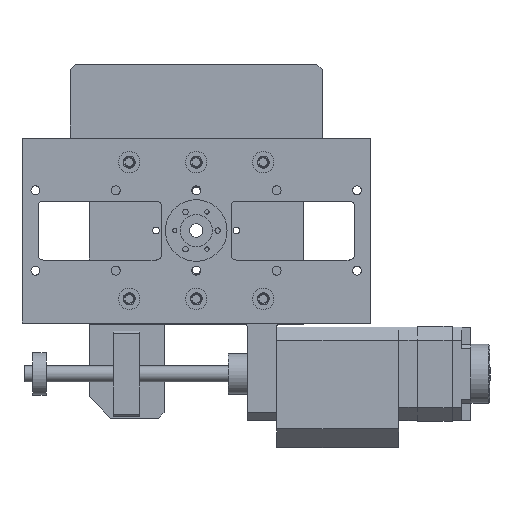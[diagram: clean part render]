
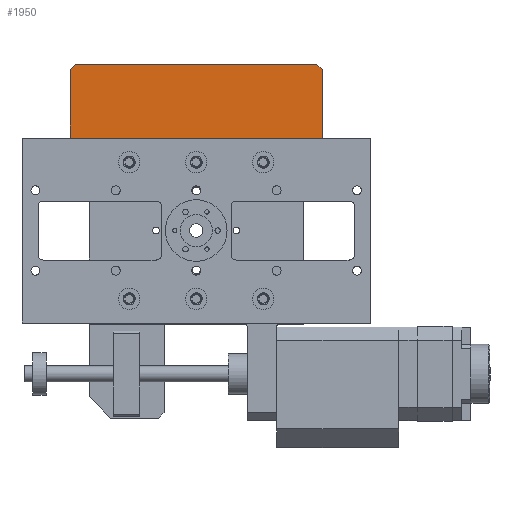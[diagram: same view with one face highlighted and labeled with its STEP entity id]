
A CAD part, front view. The second image highlights one B-rep face of the part: STEP entity #1950.
In plain terms, the highlighted planar face has unit normal (0, -1, 0).
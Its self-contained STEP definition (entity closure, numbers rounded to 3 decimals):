
#904 = CARTESIAN_POINT ( 'NONE',  ( 0., 0., 27.5 ) ) ;
#1740 = EDGE_CURVE ( 'NONE', #13705, #6605, #6832, .T. ) ;
#1950 = ADVANCED_FACE ( 'NONE', ( #10180 ), #15588, .F. ) ;
#2139 = DIRECTION ( 'NONE',  ( 1., 0., 0. ) ) ;
#2256 = DIRECTION ( 'NONE',  ( 0., 0., -1. ) ) ;
#2375 = VECTOR ( 'NONE', #12890, 1000. ) ;
#3173 = EDGE_CURVE ( 'NONE', #9062, #15972, #6837, .T. ) ;
#3561 = LINE ( 'NONE', #10438, #17258 ) ;
#4367 = CARTESIAN_POINT ( 'NONE',  ( 94., 0., 25.5 ) ) ;
#4400 = VECTOR ( 'NONE', #2139, 1000. ) ;
#4487 = CARTESIAN_POINT ( 'NONE',  ( 0., 0., 0. ) ) ;
#4679 = CARTESIAN_POINT ( 'NONE',  ( 0., 0., 27.5 ) ) ;
#4736 = EDGE_CURVE ( 'NONE', #11589, #15972, #8839, .T. ) ;
#5561 = CARTESIAN_POINT ( 'NONE',  ( 94., 0., 27.5 ) ) ;
#5820 = DIRECTION ( 'NONE',  ( 0., 0., 1. ) ) ;
#6392 = VECTOR ( 'NONE', #2256, 1000. ) ;
#6518 = CARTESIAN_POINT ( 'NONE',  ( 0., 0., 25.5 ) ) ;
#6605 = VERTEX_POINT ( 'NONE', #6518 ) ;
#6832 = LINE ( 'NONE', #13530, #7439 ) ;
#6837 = LINE ( 'NONE', #5561, #14733 ) ;
#6937 = ORIENTED_EDGE ( 'NONE', *, *, #4736, .T. ) ;
#7365 = CARTESIAN_POINT ( 'NONE',  ( 0., 0., 27.5 ) ) ;
#7439 = VECTOR ( 'NONE', #10817, 1000. ) ;
#8202 = EDGE_CURVE ( 'NONE', #13705, #9078, #16950, .T. ) ;
#8669 = CARTESIAN_POINT ( 'NONE',  ( 2., 0., 27.5 ) ) ;
#8839 = LINE ( 'NONE', #4487, #2375 ) ;
#8923 = CARTESIAN_POINT ( 'NONE',  ( 0., 0., 0. ) ) ;
#9062 = VERTEX_POINT ( 'NONE', #4367 ) ;
#9078 = VERTEX_POINT ( 'NONE', #11240 ) ;
#10180 = FACE_OUTER_BOUND ( 'NONE', #15282, .T. ) ;
#10438 = CARTESIAN_POINT ( 'NONE',  ( 92., 0., 27.5 ) ) ;
#10817 = DIRECTION ( 'NONE',  ( -0.707, 0., -0.707 ) ) ;
#11240 = CARTESIAN_POINT ( 'NONE',  ( 92., 0., 27.5 ) ) ;
#11333 = ORIENTED_EDGE ( 'NONE', *, *, #8202, .F. ) ;
#11589 = VERTEX_POINT ( 'NONE', #8923 ) ;
#12009 = EDGE_CURVE ( 'NONE', #9062, #9078, #3561, .T. ) ;
#12142 = ORIENTED_EDGE ( 'NONE', *, *, #1740, .T. ) ;
#12341 = DIRECTION ( 'NONE',  ( 0., 0., -1. ) ) ;
#12824 = ORIENTED_EDGE ( 'NONE', *, *, #12009, .T. ) ;
#12890 = DIRECTION ( 'NONE',  ( 1., 0., 0. ) ) ;
#13360 = ORIENTED_EDGE ( 'NONE', *, *, #16363, .T. ) ;
#13530 = CARTESIAN_POINT ( 'NONE',  ( 2., 0., 27.5 ) ) ;
#13705 = VERTEX_POINT ( 'NONE', #8669 ) ;
#14417 = CARTESIAN_POINT ( 'NONE',  ( 94., 0., 0. ) ) ;
#14590 = DIRECTION ( 'NONE',  ( -0.707, 0., 0.707 ) ) ;
#14733 = VECTOR ( 'NONE', #12341, 1000. ) ;
#15282 = EDGE_LOOP ( 'NONE', ( #17155, #12824, #11333, #12142, #13360, #6937 ) ) ;
#15588 = PLANE ( 'NONE',  #16116 ) ;
#15676 = DIRECTION ( 'NONE',  ( 0., 1., 0. ) ) ;
#15972 = VERTEX_POINT ( 'NONE', #14417 ) ;
#16116 = AXIS2_PLACEMENT_3D ( 'NONE', #7365, #15676, #5820 ) ;
#16363 = EDGE_CURVE ( 'NONE', #6605, #11589, #17520, .T. ) ;
#16950 = LINE ( 'NONE', #4679, #4400 ) ;
#17155 = ORIENTED_EDGE ( 'NONE', *, *, #3173, .F. ) ;
#17258 = VECTOR ( 'NONE', #14590, 1000. ) ;
#17520 = LINE ( 'NONE', #904, #6392 ) ;
